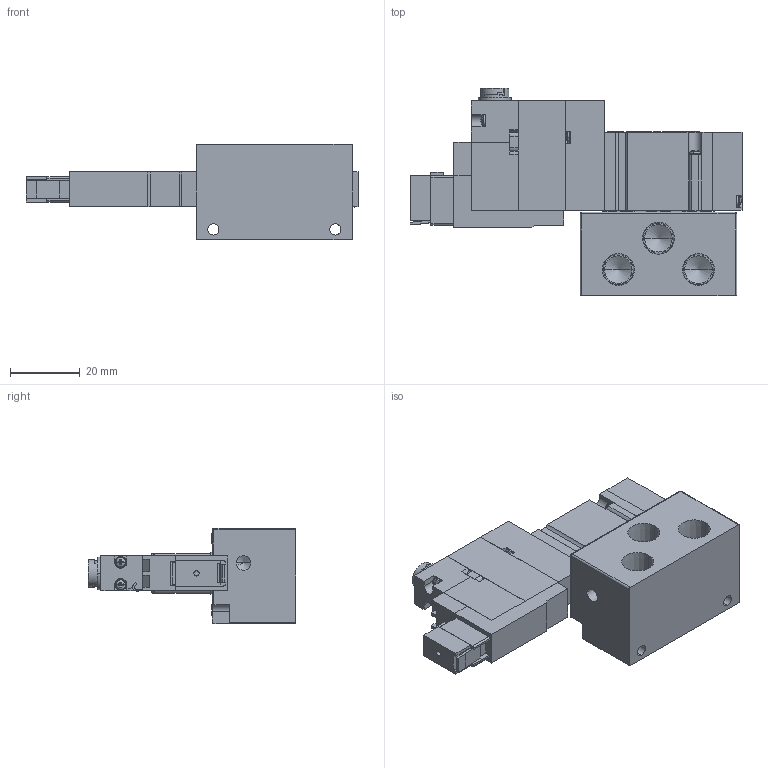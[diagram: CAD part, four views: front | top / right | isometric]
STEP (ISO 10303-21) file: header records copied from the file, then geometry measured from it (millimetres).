
FILE_DESCRIPTION (( 'STEP AP203' ), '1' );
FILE_NAME ('A05GS25-#-#-#-E.STEP', '2016-02-04T02:00:05', ( 'Sam Lin' ), ( '' ), 'SwSTEP 2.0', 'SolidWorks 2013', '' );
FILE_SCHEMA (( 'CONFIG_CONTROL_DESIGN' ));
Length unit declared in the file: metre
Products named in the file (18): 零件7^A05PS25-#-#-#; 零件3^A05PS25-#-#-#; 零件8^A05PS25-#-#-#; ISO 7045 - M1.6 x 10; DC24-A05G-3; DC24-A05G-5; 零件11^A05PS25-#-#-#; 零件12^A05PS25-#-#-#; DC24-A05G-4; mark-ADEX; DC24-A05G-1; A05GS25-1; DC24-A05G-2; 零件5^A05PS25-#-#-#; A05P底座; A05GS25-#-#-#-E; 零件6^A05PS25-#-#-#; 零件2^A05PS25-#-#-#
Assembly tree (26 placements, depth 2):
  A05GS25-#-#-#-E
    A05P底座
    零件2^A05PS25-#-#-#
    零件3^A05PS25-#-#-#
    ISO 7045 - M1.6 x 10  x8
    DC24-A05G-5
    零件12^A05PS25-#-#-#
    mark-ADEX
    A05GS25-1
    零件5^A05PS25-#-#-#
    零件6^A05PS25-#-#-#
    零件7^A05PS25-#-#-#  x2
    零件8^A05PS25-#-#-#
    DC24-A05G-3
    零件11^A05PS25-#-#-#  x2
    DC24-A05G-4
    DC24-A05G-1
    DC24-A05G-2
Bounding box: 95.3 x 59.6 x 27.5 mm (x, y, z)
Volume: 49249.4 mm3; surface area: 22520.4 mm2
Topology: 34 solids, 34 shells, 888 faces, 2223 edges, 1407 vertices
Faces by surface type: plane 579, cylinder 155, cone 96, bspline 58
Entity records: 19417 total; most frequent: CARTESIAN_POINT 3368, ORIENTED_EDGE 2862, DIRECTION 2854, EDGE_CURVE 1431, VECTOR 1072, LINE 1072, VERTEX_POINT 941, AXIS2_PLACEMENT_3D 891
